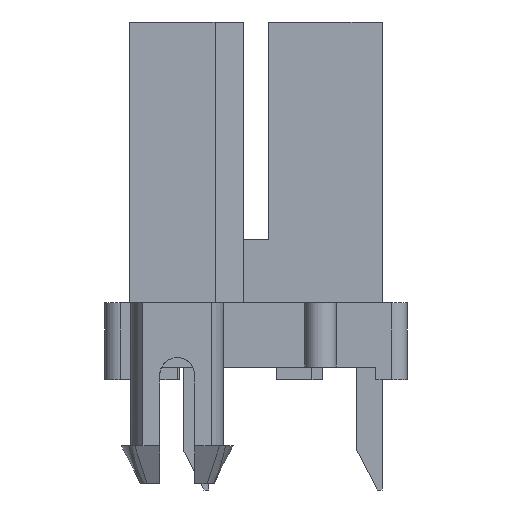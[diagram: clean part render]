
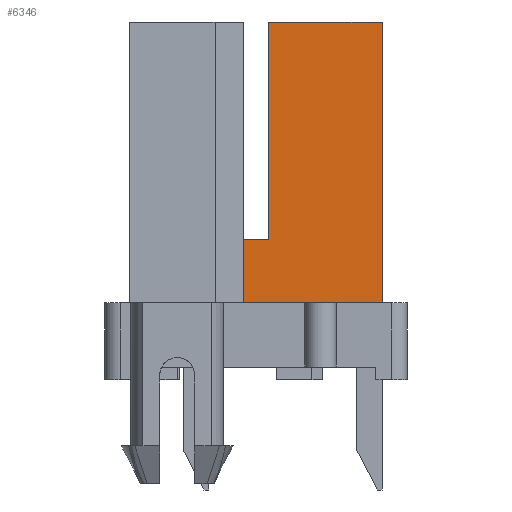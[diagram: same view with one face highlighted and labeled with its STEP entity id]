
A CAD part, left-side view. The second image highlights one B-rep face of the part: STEP entity #6346.
In plain terms, the highlighted planar face has unit normal (-1, 0, 0).
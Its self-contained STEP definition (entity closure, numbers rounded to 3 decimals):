
#438=DIRECTION('',(0.,-1.,0.));
#439=VECTOR('',#438,3.6);
#440=CARTESIAN_POINT('',(-10.2,-0.4,8.9));
#441=LINE('',#440,#439);
#486=DIRECTION('',(0.,1.,0.));
#487=VECTOR('',#486,4.4);
#488=CARTESIAN_POINT('',(-10.2,-4.,0.));
#489=LINE('',#488,#487);
#490=DIRECTION('',(0.,0.,1.));
#491=VECTOR('',#490,2.);
#492=CARTESIAN_POINT('',(-10.2,0.4,0.));
#493=LINE('',#492,#491);
#494=DIRECTION('',(0.,0.,1.));
#495=VECTOR('',#494,6.9);
#496=CARTESIAN_POINT('',(-10.2,-0.4,2.));
#497=LINE('',#496,#495);
#554=DIRECTION('',(0.,-1.,0.));
#555=VECTOR('',#554,0.8);
#556=CARTESIAN_POINT('',(-10.2,0.4,2.));
#557=LINE('',#556,#555);
#1130=DIRECTION('',(0.,0.,1.));
#1131=VECTOR('',#1130,8.9);
#1132=CARTESIAN_POINT('',(-10.2,-4.,0.));
#1133=LINE('',#1132,#1131);
#4675=CARTESIAN_POINT('',(-10.2,-0.4,8.9));
#4676=CARTESIAN_POINT('',(-10.2,-4.,8.9));
#4677=VERTEX_POINT('',#4675);
#4678=VERTEX_POINT('',#4676);
#4695=CARTESIAN_POINT('',(-10.2,-4.,0.));
#4697=VERTEX_POINT('',#4695);
#4705=CARTESIAN_POINT('',(-10.2,-0.4,2.));
#4706=VERTEX_POINT('',#4705);
#4899=CARTESIAN_POINT('',(-10.2,0.4,0.));
#4900=CARTESIAN_POINT('',(-10.2,0.4,2.));
#4901=VERTEX_POINT('',#4899);
#4902=VERTEX_POINT('',#4900);
#6330=CARTESIAN_POINT('',(-10.2,-0.4,0.));
#6331=DIRECTION('',(-1.,0.,0.));
#6332=DIRECTION('',(0.,-1.,0.));
#6333=AXIS2_PLACEMENT_3D('',#6330,#6331,#6332);
#6334=PLANE('',#6333);
#6335=ORIENTED_EDGE('',*,*,#5976,.T.);
#6336=ORIENTED_EDGE('',*,*,#6113,.T.);
#6338=ORIENTED_EDGE('',*,*,#6337,.T.);
#6340=ORIENTED_EDGE('',*,*,#6339,.T.);
#6341=ORIENTED_EDGE('',*,*,#6309,.T.);
#6343=ORIENTED_EDGE('',*,*,#6342,.F.);
#6344=EDGE_LOOP('',(#6335,#6336,#6338,#6340,#6341,#6343));
#6345=FACE_OUTER_BOUND('',#6344,.F.);
#6346=ADVANCED_FACE('',(#6345),#6334,.T.);
#5976=EDGE_CURVE('',#4697,#4901,#489,.T.);
#6113=EDGE_CURVE('',#4901,#4902,#493,.T.);
#6309=EDGE_CURVE('',#4677,#4678,#441,.T.);
#6337=EDGE_CURVE('',#4902,#4706,#557,.T.);
#6339=EDGE_CURVE('',#4706,#4677,#497,.T.);
#6342=EDGE_CURVE('',#4697,#4678,#1133,.T.);
